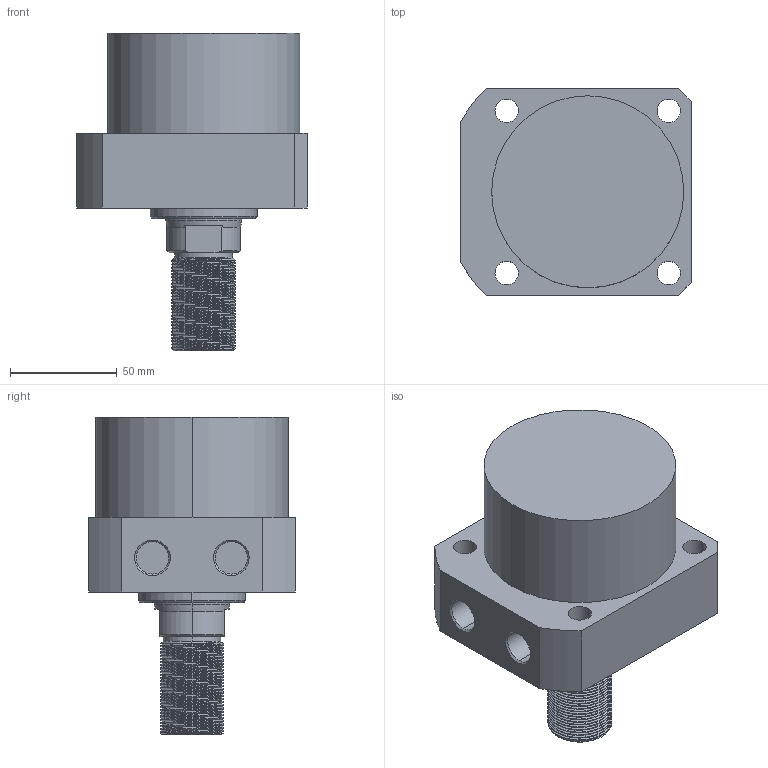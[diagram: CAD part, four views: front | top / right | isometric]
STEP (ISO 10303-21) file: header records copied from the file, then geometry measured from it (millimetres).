
FILE_DESCRIPTION (( 'STEP AP214' ), '1' );
FILE_NAME ('CLLR-090CT-025.STEP', '2020-01-09T06:25:55', ( 'Windows' ), ( 'Microsoft' ), 'SwSTEP 2.0', 'SolidWorks 2015', '' );
FILE_SCHEMA (( 'AUTOMOTIVE_DESIGN' ));
Length unit declared in the file: millimetre
Products named in the file (1): CLLR-090CT-025
Bounding box: 108 x 97 x 149 mm (x, y, z)
Volume: 690847.7 mm3; surface area: 63413.2 mm2
Topology: 1 solids, 1 shells, 122 faces, 325 edges, 213 vertices
Faces by surface type: cylinder 85, plane 20, cone 15, bspline 2
Entity records: 6965 total; most frequent: CARTESIAN_POINT 4179, ORIENTED_EDGE 650, DIRECTION 513, EDGE_CURVE 325, VERTEX_POINT 213, AXIS2_PLACEMENT_3D 196, EDGE_LOOP 138, FACE_OUTER_BOUND 122
